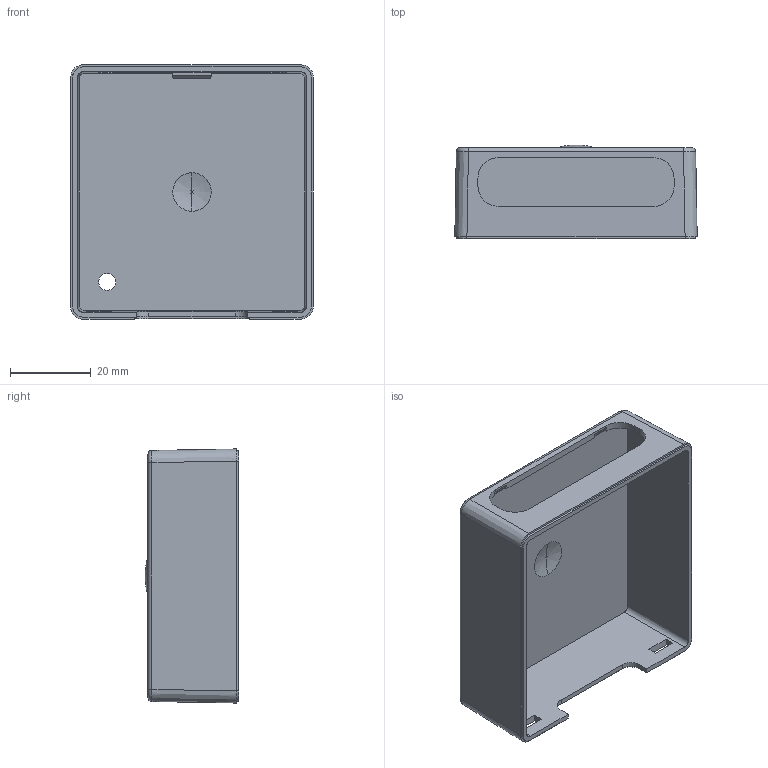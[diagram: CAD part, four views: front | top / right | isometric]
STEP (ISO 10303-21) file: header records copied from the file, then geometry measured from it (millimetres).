
FILE_DESCRIPTION (( 'STEP AP203' ), '1' );
FILE_NAME ('577002_A.STEP', '2020-08-28T12:57:32', ( '' ), ( '' ), 'SwSTEP 2.0', 'SolidWorks 2020', '' );
FILE_SCHEMA (( 'CONFIG_CONTROL_DESIGN' ));
Length unit declared in the file: millimetre
Products named in the file (1): 577002_A
Bounding box: 59.95 x 23.18 x 62.85 mm (x, y, z)
Volume: 13088.8 mm3; surface area: 16244.1 mm2
Topology: 1 solids, 1 shells, 343 faces, 911 edges, 598 vertices
Faces by surface type: plane 229, bspline 102, cylinder 12
Entity records: 12636 total; most frequent: CARTESIAN_POINT 4836, ORIENTED_EDGE 1814, DIRECTION 1158, EDGE_CURVE 907, VECTOR 646, LINE 646, VERTEX_POINT 598, EDGE_LOOP 383
